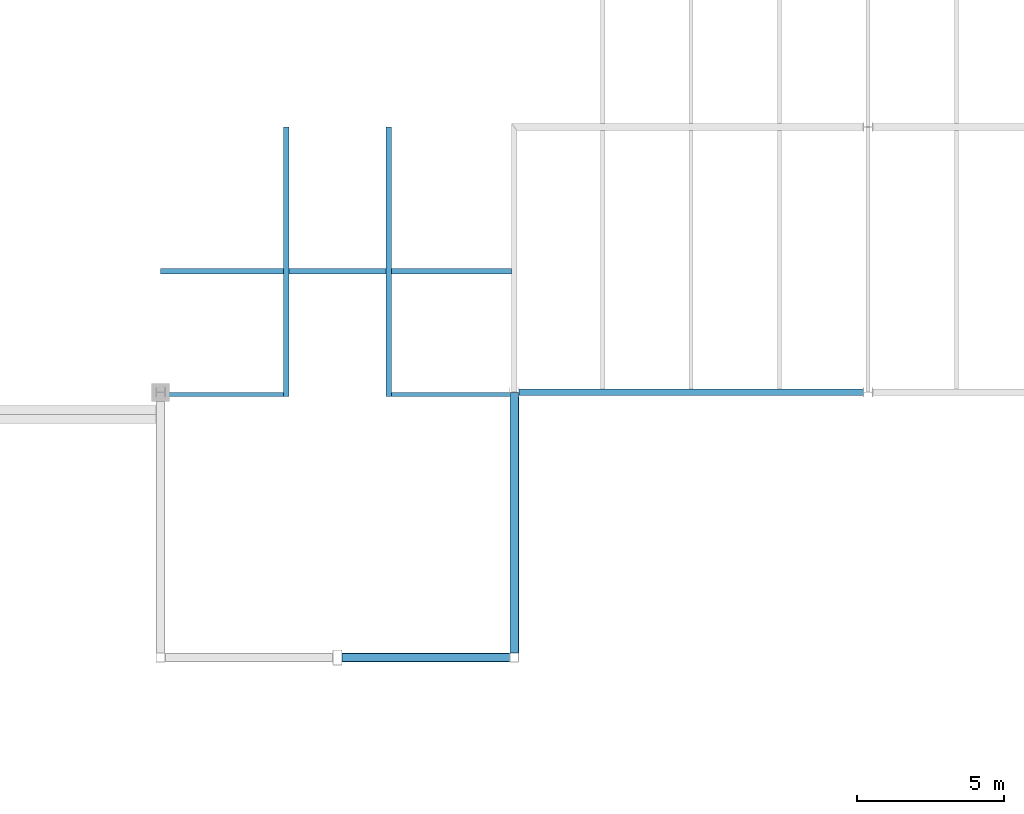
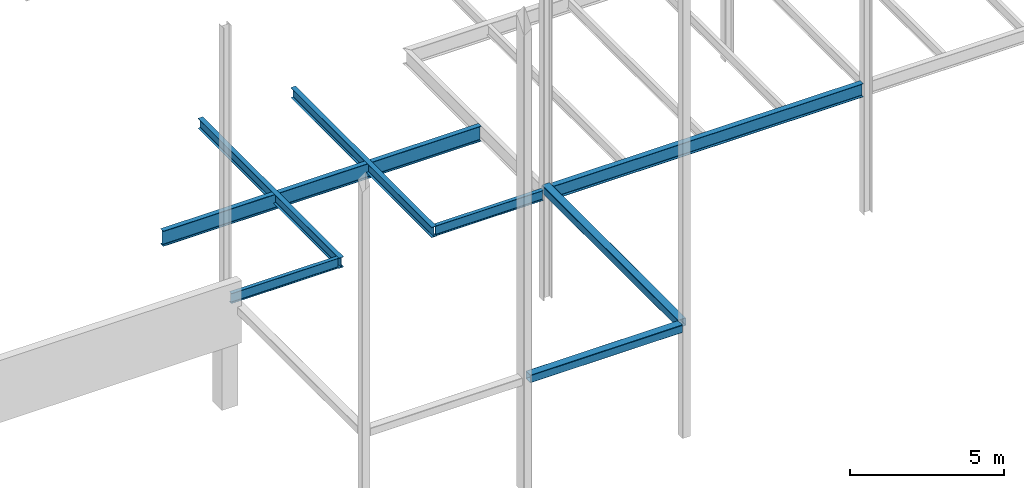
# One storey, part 11 of 19: 8 beams.
"""IFC2X3 building model written with IfcOpenShell, lengths in millimetres."""

from ifc_helpers import new_model, si_unit, origin, place, context, project, spatial, faceted_brep, material, element, save


model = new_model("IFC2X3")

# Units and contexts
context_of_model = context(None, 3, precision=1e-05, world=origin())
ifc_project = project(units=[si_unit("LENGTHUNIT", "METRE", prefix="MILLI")], contexts=[context_of_model])

# Building, storey
building = spatial("IfcBuilding", under=ifc_project, Name="Building", CompositionType="ELEMENT")
storey = spatial("IfcBuildingStorey", under=building, Name="FL2-FRM", CompositionType="ELEMENT")

# Beams
ifc_material_1 = material(Name="A992")
beam_1_placement = place(None, origin())
element("IfcBeam", 1, at=beam_1_placement, inside=storey, material=ifc_material_1, Name="Column489", context=context_of_model, shape_type="Brep", body=[
    faceted_brep([(12166.5, 8895.5, 3845.0), (12166.5, 9104.5, 3845.0), (23846.0, 9104.5, 3845.0), (23846.0, 8895.5, 3845.0), (12166.5, 9104.5, 3858.3), (23846.0, 9104.5, 3858.3), (12166.5, 9017.45, 3858.3), (23846.0, 9017.45, 3858.3), (12166.5, 9014.16, 3858.73), (23846.0, 9014.16, 3858.73), (12166.5, 9011.1, 3860.0), (23846.0, 9011.1, 3860.0), (12166.5, 9008.47, 3862.02), (23846.0, 9008.47, 3862.02), (12166.5, 9006.45, 3864.65), (23846.0, 9006.45, 3864.65), (12166.5, 9005.18, 3867.71), (23846.0, 9005.18, 3867.71), (12166.5, 9004.75, 3871.0), (23846.0, 9004.75, 3871.0), (12166.5, 9004.75, 4347.0), (23846.0, 9004.75, 4347.0), (12166.5, 9005.18, 4350.29), (23846.0, 9005.18, 4350.29), (12166.5, 9006.45, 4353.35), (23846.0, 9006.45, 4353.35), (12166.5, 9008.47, 4355.98), (23846.0, 9008.47, 4355.98), (12166.5, 9011.1, 4358.0), (23846.0, 9011.1, 4358.0), (12166.5, 9014.16, 4359.27), (23846.0, 9014.16, 4359.27), (12166.5, 9017.45, 4359.7), (23846.0, 9017.45, 4359.7), (12166.5, 9104.5, 4359.7), (23846.0, 9104.5, 4359.7), (12166.5, 9104.5, 4373.0), (23846.0, 9104.5, 4373.0), (12166.5, 8895.5, 4373.0), (23846.0, 8895.5, 4373.0), (12166.5, 8895.5, 4359.7), (23846.0, 8895.5, 4359.7), (12166.5, 8982.55, 4359.7), (23846.0, 8982.55, 4359.7), (12166.5, 8985.84, 4359.27), (23846.0, 8985.84, 4359.27), (12166.5, 8988.9, 4358.0), (23846.0, 8988.9, 4358.0), (12166.5, 8991.53, 4355.98), (23846.0, 8991.53, 4355.98), (12166.5, 8993.55, 4353.35), (23846.0, 8993.55, 4353.35), (12166.5, 8994.82, 4350.29), (23846.0, 8994.82, 4350.29), (12166.5, 8995.25, 4347.0), (23846.0, 8995.25, 4347.0), (12166.5, 8995.25, 3871.0), (23846.0, 8995.25, 3871.0), (12166.5, 8994.82, 3867.71), (23846.0, 8994.82, 3867.71), (12166.5, 8993.55, 3864.65), (23846.0, 8993.55, 3864.65), (12166.5, 8991.53, 3862.02), (23846.0, 8991.53, 3862.02), (12166.5, 8988.9, 3860.0), (23846.0, 8988.9, 3860.0), (12166.5, 8985.84, 3858.73), (23846.0, 8985.84, 3858.73), (12166.5, 8982.55, 3858.3), (23846.0, 8982.55, 3858.3), (12166.5, 8895.5, 3858.3), (23846.0, 8895.5, 3858.3)], [[[0, 1, 2, 3]], [[1, 4, 5, 2]], [[4, 6, 7, 5]], [[6, 8, 9, 7]], [[8, 10, 11, 9]], [[10, 12, 13, 11]], [[12, 14, 15, 13]], [[14, 16, 17, 15]], [[16, 18, 19, 17]], [[18, 20, 21, 19]], [[20, 22, 23, 21]], [[22, 24, 25, 23]], [[24, 26, 27, 25]], [[26, 28, 29, 27]], [[28, 30, 31, 29]], [[30, 32, 33, 31]], [[32, 34, 35, 33]], [[34, 36, 37, 35]], [[36, 38, 39, 37]], [[38, 40, 41, 39]], [[40, 42, 43, 41]], [[42, 44, 45, 43]], [[44, 46, 47, 45]], [[46, 48, 49, 47]], [[48, 50, 51, 49]], [[50, 52, 53, 51]], [[52, 54, 55, 53]], [[54, 56, 57, 55]], [[56, 58, 59, 57]], [[58, 60, 61, 59]], [[60, 62, 63, 61]], [[62, 64, 65, 63]], [[64, 66, 67, 65]], [[66, 68, 69, 67]], [[68, 70, 71, 69]], [[70, 0, 3, 71]], [[0, 70, 68, 66, 64, 62, 60, 58, 56, 54, 52, 50, 48, 46, 44, 42, 40, 38, 36, 34, 32, 30, 28, 26, 24, 22, 20, 18, 16, 14, 12, 10, 8, 6, 4, 1]], [[3, 2, 5, 7, 9, 11, 13, 15, 17, 19, 21, 23, 25, 27, 29, 31, 33, 35, 37, 39, 41, 43, 45, 47, 49, 51, 53, 55, 57, 59, 61, 63, 65, 67, 69, 71]]]),
])
ifc_material_2 = material(Name="A992")
beam_2_placement = place(None, origin())
element("IfcBeam", 2, at=beam_2_placement, inside=storey, material=ifc_material_2, Name="B599", context=context_of_model, shape_type="Brep", body=[
    faceted_brep([(0.0, 13020.0, 3770.0), (5.29946e-14, 13199.0, 3770.0), (11910.5, 13199.0, 3770.0), (11910.5, 13020.0, 3770.0), (5.29946e-14, 13199.0, 3785.0), (11910.5, 13199.0, 3785.0), (3.2611e-14, 13130.1, 3785.0), (11910.5, 13130.1, 3785.0), (3.14462e-14, 13126.2, 3785.52), (11910.5, 13126.2, 3785.52), (3.03609e-14, 13122.5, 3787.04), (11910.5, 13122.5, 3787.04), (2.94289e-14, 13119.4, 3789.45), (11910.5, 13119.4, 3789.45), (2.87137e-14, 13117.0, 3792.6), (11910.5, 13117.0, 3792.6), (2.82642e-14, 13115.5, 3796.27), (11910.5, 13115.5, 3796.27), (2.81108e-14, 13114.9, 3800.2), (11910.5, 13114.9, 3800.2), (2.81108e-14, 13114.9, 4342.8), (11910.5, 13114.9, 4342.8), (2.82642e-14, 13115.5, 4346.73), (11910.5, 13115.5, 4346.73), (2.87137e-14, 13117.0, 4350.4), (11910.5, 13117.0, 4350.4), (2.94289e-14, 13119.4, 4353.55), (11910.5, 13119.4, 4353.55), (3.03609e-14, 13122.5, 4355.96), (11910.5, 13122.5, 4355.96), (3.14462e-14, 13126.2, 4357.48), (11910.5, 13126.2, 4357.48), (3.2611e-14, 13130.1, 4358.0), (11910.5, 13130.1, 4358.0), (5.29946e-14, 13199.0, 4358.0), (11910.5, 13199.0, 4358.0), (5.29946e-14, 13199.0, 4373.0), (11910.5, 13199.0, 4373.0), (0.0, 13020.0, 4373.0), (11910.5, 13020.0, 4373.0), (0.0, 13020.0, 4358.0), (11910.5, 13020.0, 4358.0), (2.03837e-14, 13088.9, 4358.0), (11910.5, 13088.9, 4358.0), (2.15484e-14, 13092.8, 4357.48), (11910.5, 13092.8, 4357.48), (2.26337e-14, 13096.5, 4355.96), (11910.5, 13096.5, 4355.96), (2.35657e-14, 13099.6, 4353.55), (11910.5, 13099.6, 4353.55), (2.42809e-14, 13102.0, 4350.4), (11910.5, 13102.0, 4350.4), (2.47305e-14, 13103.5, 4346.73), (11910.5, 13103.5, 4346.73), (2.48838e-14, 13104.1, 4342.8), (11910.5, 13104.1, 4342.8), (2.48838e-14, 13104.1, 3800.2), (11910.5, 13104.1, 3800.2), (2.47305e-14, 13103.5, 3796.27), (11910.5, 13103.5, 3796.27), (2.42809e-14, 13102.0, 3792.6), (11910.5, 13102.0, 3792.6), (2.35657e-14, 13099.6, 3789.45), (11910.5, 13099.6, 3789.45), (2.26337e-14, 13096.5, 3787.04), (11910.5, 13096.5, 3787.04), (2.15484e-14, 13092.8, 3785.52), (11910.5, 13092.8, 3785.52), (2.03837e-14, 13088.9, 3785.0), (11910.5, 13088.9, 3785.0), (0.0, 13020.0, 3785.0), (11910.5, 13020.0, 3785.0)], [[[0, 1, 2, 3]], [[1, 4, 5, 2]], [[4, 6, 7, 5]], [[6, 8, 9, 7]], [[8, 10, 11, 9]], [[10, 12, 13, 11]], [[12, 14, 15, 13]], [[14, 16, 17, 15]], [[16, 18, 19, 17]], [[18, 20, 21, 19]], [[20, 22, 23, 21]], [[22, 24, 25, 23]], [[24, 26, 27, 25]], [[26, 28, 29, 27]], [[28, 30, 31, 29]], [[30, 32, 33, 31]], [[32, 34, 35, 33]], [[34, 36, 37, 35]], [[36, 38, 39, 37]], [[38, 40, 41, 39]], [[40, 42, 43, 41]], [[42, 44, 45, 43]], [[44, 46, 47, 45]], [[46, 48, 49, 47]], [[48, 50, 51, 49]], [[50, 52, 53, 51]], [[52, 54, 55, 53]], [[54, 56, 57, 55]], [[56, 58, 59, 57]], [[58, 60, 61, 59]], [[60, 62, 63, 61]], [[62, 64, 65, 63]], [[64, 66, 67, 65]], [[66, 68, 69, 67]], [[68, 70, 71, 69]], [[70, 0, 3, 71]], [[0, 70, 68, 66, 64, 62, 60, 58, 56, 54, 52, 50, 48, 46, 44, 42, 40, 38, 36, 34, 32, 30, 28, 26, 24, 22, 20, 18, 16, 14, 12, 10, 8, 6, 4, 1]], [[3, 2, 5, 7, 9, 11, 13, 15, 17, 19, 21, 23, 25, 27, 29, 31, 33, 35, 37, 39, 41, 43, 45, 47, 49, 51, 53, 55, 57, 59, 61, 63, 65, 67, 69, 71]]]),
])
ifc_material_3 = material(Name="A992")
beam_3_placement = place(None, origin())
element("IfcBeam", 3, at=beam_3_placement, inside=storey, material=ifc_material_3, Name="B750", context=context_of_model, shape_type="Brep", body=[
    faceted_brep([(4351.0, 8851.2, 3966.0), (4173.0, 8851.2, 3966.0), (4173.0, 18000.0, 3966.0), (4351.0, 18000.0, 3966.0), (4173.0, 8851.2, 3978.8), (4173.0, 18000.0, 3978.8), (4247.95, 8851.2, 3978.8), (4247.95, 18000.0, 3978.8), (4250.59, 8851.2, 3979.15), (4250.59, 18000.0, 3979.15), (4253.05, 8851.2, 3980.17), (4253.05, 18000.0, 3980.17), (4255.16, 8851.2, 3981.79), (4255.16, 18000.0, 3981.79), (4256.78, 8851.2, 3983.9), (4256.78, 18000.0, 3983.9), (4257.8, 8851.2, 3986.36), (4257.8, 18000.0, 3986.36), (4258.15, 8851.2, 3989.0), (4258.15, 18000.0, 3989.0), (4258.15, 8851.2, 4350.0), (4258.15, 18000.0, 4350.0), (4257.8, 8851.2, 4352.64), (4257.8, 18000.0, 4352.64), (4256.78, 8851.2, 4355.1), (4256.78, 18000.0, 4355.1), (4255.16, 8851.2, 4357.21), (4255.16, 18000.0, 4357.21), (4253.05, 8851.2, 4358.83), (4253.05, 18000.0, 4358.83), (4250.59, 8851.2, 4359.85), (4250.59, 18000.0, 4359.85), (4247.95, 8851.2, 4360.2), (4247.95, 18000.0, 4360.2), (4173.0, 8851.2, 4360.2), (4173.0, 18000.0, 4360.2), (4173.0, 8851.2, 4373.0), (4173.0, 18000.0, 4373.0), (4351.0, 8851.2, 4373.0), (4351.0, 18000.0, 4373.0), (4351.0, 8851.2, 4360.2), (4351.0, 18000.0, 4360.2), (4276.05, 8851.2, 4360.2), (4276.05, 18000.0, 4360.2), (4273.41, 8851.2, 4359.85), (4273.41, 18000.0, 4359.85), (4270.95, 8851.2, 4358.83), (4270.95, 18000.0, 4358.83), (4268.84, 8851.2, 4357.21), (4268.84, 18000.0, 4357.21), (4267.22, 8851.2, 4355.1), (4267.22, 18000.0, 4355.1), (4266.2, 8851.2, 4352.64), (4266.2, 18000.0, 4352.64), (4265.85, 8851.2, 4350.0), (4265.85, 18000.0, 4350.0), (4265.85, 8851.2, 3989.0), (4265.85, 18000.0, 3989.0), (4266.2, 8851.2, 3986.36), (4266.2, 18000.0, 3986.36), (4267.22, 8851.2, 3983.9), (4267.22, 18000.0, 3983.9), (4268.84, 8851.2, 3981.79), (4268.84, 18000.0, 3981.79), (4270.95, 8851.2, 3980.17), (4270.95, 18000.0, 3980.17), (4273.41, 8851.2, 3979.15), (4273.41, 18000.0, 3979.15), (4276.05, 8851.2, 3978.8), (4276.05, 18000.0, 3978.8), (4351.0, 8851.2, 3978.8), (4351.0, 18000.0, 3978.8)], [[[0, 1, 2, 3]], [[1, 4, 5, 2]], [[4, 6, 7, 5]], [[6, 8, 9, 7]], [[8, 10, 11, 9]], [[10, 12, 13, 11]], [[12, 14, 15, 13]], [[14, 16, 17, 15]], [[16, 18, 19, 17]], [[18, 20, 21, 19]], [[20, 22, 23, 21]], [[22, 24, 25, 23]], [[24, 26, 27, 25]], [[26, 28, 29, 27]], [[28, 30, 31, 29]], [[30, 32, 33, 31]], [[32, 34, 35, 33]], [[34, 36, 37, 35]], [[36, 38, 39, 37]], [[38, 40, 41, 39]], [[40, 42, 43, 41]], [[42, 44, 45, 43]], [[44, 46, 47, 45]], [[46, 48, 49, 47]], [[48, 50, 51, 49]], [[50, 52, 53, 51]], [[52, 54, 55, 53]], [[54, 56, 57, 55]], [[56, 58, 59, 57]], [[58, 60, 61, 59]], [[60, 62, 63, 61]], [[62, 64, 65, 63]], [[64, 66, 67, 65]], [[66, 68, 69, 67]], [[68, 70, 71, 69]], [[70, 0, 3, 71]], [[0, 70, 68, 66, 64, 62, 60, 58, 56, 54, 52, 50, 48, 46, 44, 42, 40, 38, 36, 34, 32, 30, 28, 26, 24, 22, 20, 18, 16, 14, 12, 10, 8, 6, 4, 1]], [[3, 2, 5, 7, 9, 11, 13, 15, 17, 19, 21, 23, 25, 27, 29, 31, 33, 35, 37, 39, 41, 43, 45, 47, 49, 51, 53, 55, 57, 59, 61, 63, 65, 67, 69, 71]]]),
])
ifc_material_4 = material(Name="A992")
beam_4_placement = place(None, origin())
element("IfcBeam", 4, at=beam_4_placement, inside=storey, material=ifc_material_4, Name="B751", context=context_of_model, shape_type="Brep", body=[
    faceted_brep([(7827.0, 8851.2, 3966.0), (7649.0, 8851.2, 3966.0), (7649.0, 18000.0, 3966.0), (7827.0, 18000.0, 3966.0), (7649.0, 8851.2, 3978.8), (7649.0, 18000.0, 3978.8), (7723.95, 8851.2, 3978.8), (7723.95, 18000.0, 3978.8), (7726.59, 8851.2, 3979.15), (7726.59, 18000.0, 3979.15), (7729.05, 8851.2, 3980.17), (7729.05, 18000.0, 3980.17), (7731.16, 8851.2, 3981.79), (7731.16, 18000.0, 3981.79), (7732.78, 8851.2, 3983.9), (7732.78, 18000.0, 3983.9), (7733.8, 8851.2, 3986.36), (7733.8, 18000.0, 3986.36), (7734.15, 8851.2, 3989.0), (7734.15, 18000.0, 3989.0), (7734.15, 8851.2, 4350.0), (7734.15, 18000.0, 4350.0), (7733.8, 8851.2, 4352.64), (7733.8, 18000.0, 4352.64), (7732.78, 8851.2, 4355.1), (7732.78, 18000.0, 4355.1), (7731.16, 8851.2, 4357.21), (7731.16, 18000.0, 4357.21), (7729.05, 8851.2, 4358.83), (7729.05, 18000.0, 4358.83), (7726.59, 8851.2, 4359.85), (7726.59, 18000.0, 4359.85), (7723.95, 8851.2, 4360.2), (7723.95, 18000.0, 4360.2), (7649.0, 8851.2, 4360.2), (7649.0, 18000.0, 4360.2), (7649.0, 8851.2, 4373.0), (7649.0, 18000.0, 4373.0), (7827.0, 8851.2, 4373.0), (7827.0, 18000.0, 4373.0), (7827.0, 8851.2, 4360.2), (7827.0, 18000.0, 4360.2), (7752.05, 8851.2, 4360.2), (7752.05, 18000.0, 4360.2), (7749.41, 8851.2, 4359.85), (7749.41, 18000.0, 4359.85), (7746.95, 8851.2, 4358.83), (7746.95, 18000.0, 4358.83), (7744.84, 8851.2, 4357.21), (7744.84, 18000.0, 4357.21), (7743.22, 8851.2, 4355.1), (7743.22, 18000.0, 4355.1), (7742.2, 8851.2, 4352.64), (7742.2, 18000.0, 4352.64), (7741.85, 8851.2, 4350.0), (7741.85, 18000.0, 4350.0), (7741.85, 8851.2, 3989.0), (7741.85, 18000.0, 3989.0), (7742.2, 8851.2, 3986.36), (7742.2, 18000.0, 3986.36), (7743.22, 8851.2, 3983.9), (7743.22, 18000.0, 3983.9), (7744.84, 8851.2, 3981.79), (7744.84, 18000.0, 3981.79), (7746.95, 8851.2, 3980.17), (7746.95, 18000.0, 3980.17), (7749.41, 8851.2, 3979.15), (7749.41, 18000.0, 3979.15), (7752.05, 8851.2, 3978.8), (7752.05, 18000.0, 3978.8), (7827.0, 8851.2, 3978.8), (7827.0, 18000.0, 3978.8)], [[[0, 1, 2, 3]], [[1, 4, 5, 2]], [[4, 6, 7, 5]], [[6, 8, 9, 7]], [[8, 10, 11, 9]], [[10, 12, 13, 11]], [[12, 14, 15, 13]], [[14, 16, 17, 15]], [[16, 18, 19, 17]], [[18, 20, 21, 19]], [[20, 22, 23, 21]], [[22, 24, 25, 23]], [[24, 26, 27, 25]], [[26, 28, 29, 27]], [[28, 30, 31, 29]], [[30, 32, 33, 31]], [[32, 34, 35, 33]], [[34, 36, 37, 35]], [[36, 38, 39, 37]], [[38, 40, 41, 39]], [[40, 42, 43, 41]], [[42, 44, 45, 43]], [[44, 46, 47, 45]], [[46, 48, 49, 47]], [[48, 50, 51, 49]], [[50, 52, 53, 51]], [[52, 54, 55, 53]], [[54, 56, 57, 55]], [[56, 58, 59, 57]], [[58, 60, 61, 59]], [[60, 62, 63, 61]], [[62, 64, 65, 63]], [[64, 66, 67, 65]], [[66, 68, 69, 67]], [[68, 70, 71, 69]], [[70, 0, 3, 71]], [[0, 70, 68, 66, 64, 62, 60, 58, 56, 54, 52, 50, 48, 46, 44, 42, 40, 38, 36, 34, 32, 30, 28, 26, 24, 22, 20, 18, 16, 14, 12, 10, 8, 6, 4, 1]], [[3, 2, 5, 7, 9, 11, 13, 15, 17, 19, 21, 23, 25, 27, 29, 31, 33, 35, 37, 39, 41, 43, 45, 47, 49, 51, 53, 55, 57, 59, 61, 63, 65, 67, 69, 71]]]),
])
ifc_material_5 = material(Name="A500 grade B")
beam_5_placement = place(None, origin())
element("IfcBeam", 5, at=beam_5_placement, inside=storey, material=ifc_material_5, Name="B1233", context=context_of_model, shape_type="Brep", body=[
    faceted_brep([(6152.5, -1.94289e-12, 4195.0), (6152.5, 133.5, 4195.0), (11847.5, 133.5, 4195.0), (11847.5, -1.94289e-12, 4195.0), (6152.5, 138.418, 4195.65), (11847.5, 138.418, 4195.65), (6152.5, 143.0, 4197.55), (11847.5, 143.0, 4197.55), (6152.5, 146.935, 4200.56), (11847.5, 146.935, 4200.56), (6152.5, 149.954, 4204.5), (11847.5, 149.954, 4204.5), (6152.5, 151.853, 4209.08), (11847.5, 151.853, 4209.08), (6152.5, 152.5, 4214.0), (11847.5, 152.5, 4214.0), (6152.5, 152.5, 4481.0), (11847.5, 152.5, 4481.0), (6152.5, 151.853, 4485.92), (11847.5, 151.853, 4485.92), (6152.5, 149.954, 4490.5), (11847.5, 149.954, 4490.5), (6152.5, 146.935, 4494.44), (11847.5, 146.935, 4494.44), (6152.5, 143.0, 4497.45), (11847.5, 143.0, 4497.45), (6152.5, 138.418, 4499.35), (11847.5, 138.418, 4499.35), (6152.5, 133.5, 4500.0), (11847.5, 133.5, 4500.0), (6152.5, -133.5, 4500.0), (11847.5, -133.5, 4500.0), (6152.5, -138.418, 4499.35), (11847.5, -138.418, 4499.35), (6152.5, -143.0, 4497.45), (11847.5, -143.0, 4497.45), (6152.5, -146.935, 4494.44), (11847.5, -146.935, 4494.44), (6152.5, -149.954, 4490.5), (11847.5, -149.954, 4490.5), (6152.5, -151.853, 4485.92), (11847.5, -151.853, 4485.92), (6152.5, -152.5, 4481.0), (11847.5, -152.5, 4481.0), (6152.5, -152.5, 4214.0), (11847.5, -152.5, 4214.0), (6152.5, -151.853, 4209.08), (11847.5, -151.853, 4209.08), (6152.5, -149.954, 4204.5), (11847.5, -149.954, 4204.5), (6152.5, -146.935, 4200.56), (11847.5, -146.935, 4200.56), (6152.5, -143.0, 4197.55), (11847.5, -143.0, 4197.55), (6152.5, -138.418, 4195.65), (11847.5, -138.418, 4195.65), (6152.5, -133.5, 4195.0), (11847.5, -133.5, 4195.0), (6152.5, -1.94289e-12, 4204.5), (6152.5, -133.5, 4204.5), (11847.5, -133.5, 4204.5), (11847.5, -1.94289e-12, 4204.5), (6152.5, -135.959, 4204.82), (11847.5, -135.959, 4204.82), (6152.5, -138.25, 4205.77), (11847.5, -138.25, 4205.77), (6152.5, -140.218, 4207.28), (11847.5, -140.218, 4207.28), (6152.5, -141.727, 4209.25), (11847.5, -141.727, 4209.25), (6152.5, -142.676, 4211.54), (11847.5, -142.676, 4211.54), (6152.5, -143.0, 4214.0), (11847.5, -143.0, 4214.0), (6152.5, -143.0, 4481.0), (11847.5, -143.0, 4481.0), (6152.5, -142.676, 4483.46), (11847.5, -142.676, 4483.46), (6152.5, -141.727, 4485.75), (11847.5, -141.727, 4485.75), (6152.5, -140.218, 4487.72), (11847.5, -140.218, 4487.72), (6152.5, -138.25, 4489.23), (11847.5, -138.25, 4489.23), (6152.5, -135.959, 4490.18), (11847.5, -135.959, 4490.18), (6152.5, -133.5, 4490.5), (11847.5, -133.5, 4490.5), (6152.5, 133.5, 4490.5), (11847.5, 133.5, 4490.5), (6152.5, 135.959, 4490.18), (11847.5, 135.959, 4490.18), (6152.5, 138.25, 4489.23), (11847.5, 138.25, 4489.23), (6152.5, 140.218, 4487.72), (11847.5, 140.218, 4487.72), (6152.5, 141.727, 4485.75), (11847.5, 141.727, 4485.75), (6152.5, 142.676, 4483.46), (11847.5, 142.676, 4483.46), (6152.5, 143.0, 4481.0), (11847.5, 143.0, 4481.0), (6152.5, 143.0, 4214.0), (11847.5, 143.0, 4214.0), (6152.5, 142.676, 4211.54), (11847.5, 142.676, 4211.54), (6152.5, 141.727, 4209.25), (11847.5, 141.727, 4209.25), (6152.5, 140.218, 4207.28), (11847.5, 140.218, 4207.28), (6152.5, 138.25, 4205.77), (11847.5, 138.25, 4205.77), (6152.5, 135.959, 4204.82), (11847.5, 135.959, 4204.82), (6152.5, 133.5, 4204.5), (11847.5, 133.5, 4204.5)], [[[0, 1, 2, 3]], [[1, 4, 5, 2]], [[4, 6, 7, 5]], [[6, 8, 9, 7]], [[8, 10, 11, 9]], [[10, 12, 13, 11]], [[12, 14, 15, 13]], [[14, 16, 17, 15]], [[16, 18, 19, 17]], [[18, 20, 21, 19]], [[20, 22, 23, 21]], [[22, 24, 25, 23]], [[24, 26, 27, 25]], [[26, 28, 29, 27]], [[28, 30, 31, 29]], [[30, 32, 33, 31]], [[32, 34, 35, 33]], [[34, 36, 37, 35]], [[36, 38, 39, 37]], [[38, 40, 41, 39]], [[40, 42, 43, 41]], [[42, 44, 45, 43]], [[44, 46, 47, 45]], [[46, 48, 49, 47]], [[48, 50, 51, 49]], [[50, 52, 53, 51]], [[52, 54, 55, 53]], [[54, 56, 57, 55]], [[56, 0, 3, 57]], [[58, 59, 60, 61]], [[59, 62, 63, 60]], [[62, 64, 65, 63]], [[64, 66, 67, 65]], [[66, 68, 69, 67]], [[68, 70, 71, 69]], [[70, 72, 73, 71]], [[72, 74, 75, 73]], [[74, 76, 77, 75]], [[76, 78, 79, 77]], [[78, 80, 81, 79]], [[80, 82, 83, 81]], [[82, 84, 85, 83]], [[84, 86, 87, 85]], [[86, 88, 89, 87]], [[88, 90, 91, 89]], [[90, 92, 93, 91]], [[92, 94, 95, 93]], [[94, 96, 97, 95]], [[96, 98, 99, 97]], [[98, 100, 101, 99]], [[100, 102, 103, 101]], [[102, 104, 105, 103]], [[104, 106, 107, 105]], [[106, 108, 109, 107]], [[108, 110, 111, 109]], [[110, 112, 113, 111]], [[112, 114, 115, 113]], [[114, 58, 61, 115]], [[0, 56, 54, 52, 50, 48, 46, 44, 42, 40, 38, 36, 34, 32, 30, 28, 26, 24, 22, 20, 18, 16, 14, 12, 10, 8, 6, 4, 1], [58, 114, 112, 110, 108, 106, 104, 102, 100, 98, 96, 94, 92, 90, 88, 86, 84, 82, 80, 78, 76, 74, 72, 70, 68, 66, 64, 62, 59]], [[3, 2, 5, 7, 9, 11, 13, 15, 17, 19, 21, 23, 25, 27, 29, 31, 33, 35, 37, 39, 41, 43, 45, 47, 49, 51, 53, 55, 57], [61, 60, 63, 65, 67, 69, 71, 73, 75, 77, 79, 81, 83, 85, 87, 89, 91, 93, 95, 97, 99, 101, 103, 105, 107, 109, 111, 113, 115]]]),
])
ifc_material_6 = material(Name="A500 grade B")
beam_6_placement = place(None, origin())
element("IfcBeam", 6, at=beam_6_placement, inside=storey, material=ifc_material_6, Name="B1234", context=context_of_model, shape_type="Brep", body=[
    faceted_brep([(12000.0, 152.5, 4195.0), (11866.5, 152.5, 4195.0), (11866.5, 8991.0, 4195.0), (12000.0, 8991.0, 4195.0), (11861.6, 152.5, 4195.65), (11861.6, 8991.0, 4195.65), (11857.0, 152.5, 4197.55), (11857.0, 8991.0, 4197.55), (11853.1, 152.5, 4200.56), (11853.1, 8991.0, 4200.56), (11850.0, 152.5, 4204.5), (11850.0, 8991.0, 4204.5), (11848.1, 152.5, 4209.08), (11848.1, 8991.0, 4209.08), (11847.5, 152.5, 4214.0), (11847.5, 8991.0, 4214.0), (11847.5, 152.5, 4481.0), (11847.5, 8991.0, 4481.0), (11848.1, 152.5, 4485.92), (11848.1, 8991.0, 4485.92), (11850.0, 152.5, 4490.5), (11850.0, 8991.0, 4490.5), (11853.1, 152.5, 4494.44), (11853.1, 8991.0, 4494.44), (11857.0, 152.5, 4497.45), (11857.0, 8991.0, 4497.45), (11861.6, 152.5, 4499.35), (11861.6, 8991.0, 4499.35), (11866.5, 152.5, 4500.0), (11866.5, 8991.0, 4500.0), (12133.5, 152.5, 4500.0), (12133.5, 8991.0, 4500.0), (12138.4, 152.5, 4499.35), (12138.4, 8991.0, 4499.35), (12143.0, 152.5, 4497.45), (12143.0, 8991.0, 4497.45), (12146.9, 152.5, 4494.44), (12146.9, 8991.0, 4494.44), (12150.0, 152.5, 4490.5), (12150.0, 8991.0, 4490.5), (12151.9, 152.5, 4485.92), (12151.9, 8991.0, 4485.92), (12152.5, 152.5, 4481.0), (12152.5, 8991.0, 4481.0), (12152.5, 152.5, 4214.0), (12152.5, 8991.0, 4214.0), (12151.9, 152.5, 4209.08), (12151.9, 8991.0, 4209.08), (12150.0, 152.5, 4204.5), (12150.0, 8991.0, 4204.5), (12146.9, 152.5, 4200.56), (12146.9, 8991.0, 4200.56), (12143.0, 152.5, 4197.55), (12143.0, 8991.0, 4197.55), (12138.4, 152.5, 4195.65), (12138.4, 8991.0, 4195.65), (12133.5, 152.5, 4195.0), (12133.5, 8991.0, 4195.0), (12000.0, 152.5, 4204.5), (12133.5, 152.5, 4204.5), (12133.5, 8991.0, 4204.5), (12000.0, 8991.0, 4204.5), (12136.0, 152.5, 4204.82), (12136.0, 8991.0, 4204.82), (12138.3, 152.5, 4205.77), (12138.3, 8991.0, 4205.77), (12140.2, 152.5, 4207.28), (12140.2, 8991.0, 4207.28), (12141.7, 152.5, 4209.25), (12141.7, 8991.0, 4209.25), (12142.7, 152.5, 4211.54), (12142.7, 8991.0, 4211.54), (12143.0, 152.5, 4214.0), (12143.0, 8991.0, 4214.0), (12143.0, 152.5, 4481.0), (12143.0, 8991.0, 4481.0), (12142.7, 152.5, 4483.46), (12142.7, 8991.0, 4483.46), (12141.7, 152.5, 4485.75), (12141.7, 8991.0, 4485.75), (12140.2, 152.5, 4487.72), (12140.2, 8991.0, 4487.72), (12138.3, 152.5, 4489.23), (12138.3, 8991.0, 4489.23), (12136.0, 152.5, 4490.18), (12136.0, 8991.0, 4490.18), (12133.5, 152.5, 4490.5), (12133.5, 8991.0, 4490.5), (11866.5, 152.5, 4490.5), (11866.5, 8991.0, 4490.5), (11864.0, 152.5, 4490.18), (11864.0, 8991.0, 4490.18), (11861.8, 152.5, 4489.23), (11861.8, 8991.0, 4489.23), (11859.8, 152.5, 4487.72), (11859.8, 8991.0, 4487.72), (11858.3, 152.5, 4485.75), (11858.3, 8991.0, 4485.75), (11857.3, 152.5, 4483.46), (11857.3, 8991.0, 4483.46), (11857.0, 152.5, 4481.0), (11857.0, 8991.0, 4481.0), (11857.0, 152.5, 4214.0), (11857.0, 8991.0, 4214.0), (11857.3, 152.5, 4211.54), (11857.3, 8991.0, 4211.54), (11858.3, 152.5, 4209.25), (11858.3, 8991.0, 4209.25), (11859.8, 152.5, 4207.28), (11859.8, 8991.0, 4207.28), (11861.8, 152.5, 4205.77), (11861.8, 8991.0, 4205.77), (11864.0, 152.5, 4204.82), (11864.0, 8991.0, 4204.82), (11866.5, 152.5, 4204.5), (11866.5, 8991.0, 4204.5)], [[[0, 1, 2, 3]], [[1, 4, 5, 2]], [[4, 6, 7, 5]], [[6, 8, 9, 7]], [[8, 10, 11, 9]], [[10, 12, 13, 11]], [[12, 14, 15, 13]], [[14, 16, 17, 15]], [[16, 18, 19, 17]], [[18, 20, 21, 19]], [[20, 22, 23, 21]], [[22, 24, 25, 23]], [[24, 26, 27, 25]], [[26, 28, 29, 27]], [[28, 30, 31, 29]], [[30, 32, 33, 31]], [[32, 34, 35, 33]], [[34, 36, 37, 35]], [[36, 38, 39, 37]], [[38, 40, 41, 39]], [[40, 42, 43, 41]], [[42, 44, 45, 43]], [[44, 46, 47, 45]], [[46, 48, 49, 47]], [[48, 50, 51, 49]], [[50, 52, 53, 51]], [[52, 54, 55, 53]], [[54, 56, 57, 55]], [[56, 0, 3, 57]], [[58, 59, 60, 61]], [[59, 62, 63, 60]], [[62, 64, 65, 63]], [[64, 66, 67, 65]], [[66, 68, 69, 67]], [[68, 70, 71, 69]], [[70, 72, 73, 71]], [[72, 74, 75, 73]], [[74, 76, 77, 75]], [[76, 78, 79, 77]], [[78, 80, 81, 79]], [[80, 82, 83, 81]], [[82, 84, 85, 83]], [[84, 86, 87, 85]], [[86, 88, 89, 87]], [[88, 90, 91, 89]], [[90, 92, 93, 91]], [[92, 94, 95, 93]], [[94, 96, 97, 95]], [[96, 98, 99, 97]], [[98, 100, 101, 99]], [[100, 102, 103, 101]], [[102, 104, 105, 103]], [[104, 106, 107, 105]], [[106, 108, 109, 107]], [[108, 110, 111, 109]], [[110, 112, 113, 111]], [[112, 114, 115, 113]], [[114, 58, 61, 115]], [[0, 56, 54, 52, 50, 48, 46, 44, 42, 40, 38, 36, 34, 32, 30, 28, 26, 24, 22, 20, 18, 16, 14, 12, 10, 8, 6, 4, 1], [58, 114, 112, 110, 108, 106, 104, 102, 100, 98, 96, 94, 92, 90, 88, 86, 84, 82, 80, 78, 76, 74, 72, 70, 68, 66, 64, 62, 59]], [[3, 2, 5, 7, 9, 11, 13, 15, 17, 19, 21, 23, 25, 27, 29, 31, 33, 35, 37, 39, 41, 43, 45, 47, 49, 51, 53, 55, 57], [61, 60, 63, 65, 67, 69, 71, 73, 75, 77, 79, 81, 83, 85, 87, 89, 91, 93, 95, 97, 99, 101, 103, 105, 107, 109, 111, 113, 115]]]),
])
ifc_material_7 = material(Name="A992")
beam_7_placement = place(None, origin())
element("IfcBeam", 7, at=beam_7_placement, inside=storey, material=ifc_material_7, Name="B1244", context=context_of_model, shape_type="Brep", body=[
    faceted_brep([(4173.2, 9000.0, 3974.0), (4173.2, 8860.0, 3974.0), (154.0, 8860.0, 3974.0), (154.0, 9000.0, 3974.0), (4173.2, 8860.0, 3982.8), (154.0, 8860.0, 3982.8), (4173.2, 8916.6, 3982.8), (154.0, 8916.6, 3982.8), (4173.2, 8919.24, 3983.15), (154.0, 8919.24, 3983.15), (4173.2, 8921.7, 3984.17), (154.0, 8921.7, 3984.17), (4173.2, 8923.81, 3985.79), (154.0, 8923.81, 3985.79), (4173.2, 8925.43, 3987.9), (154.0, 8925.43, 3987.9), (4173.2, 8926.45, 3990.36), (154.0, 8926.45, 3990.36), (4173.2, 8926.8, 3993.0), (154.0, 8926.8, 3993.0), (4173.2, 8926.8, 4354.0), (154.0, 8926.8, 4354.0), (4173.2, 8926.45, 4356.64), (154.0, 8926.45, 4356.64), (4173.2, 8925.43, 4359.1), (154.0, 8925.43, 4359.1), (4173.2, 8923.81, 4361.21), (154.0, 8923.81, 4361.21), (4173.2, 8921.7, 4362.83), (154.0, 8921.7, 4362.83), (4173.2, 8919.24, 4363.85), (154.0, 8919.24, 4363.85), (4173.2, 8916.6, 4364.2), (154.0, 8916.6, 4364.2), (4173.2, 8860.0, 4364.2), (154.0, 8860.0, 4364.2), (4173.2, 8860.0, 4373.0), (154.0, 8860.0, 4373.0), (4173.2, 9000.0, 4373.0), (154.0, 9000.0, 4373.0), (4173.2, 9000.0, 4364.2), (154.0, 9000.0, 4364.2), (4173.2, 8943.4, 4364.2), (154.0, 8943.4, 4364.2), (4173.2, 8940.76, 4363.85), (154.0, 8940.76, 4363.85), (4173.2, 8938.3, 4362.83), (154.0, 8938.3, 4362.83), (4173.2, 8936.19, 4361.21), (154.0, 8936.19, 4361.21), (4173.2, 8934.57, 4359.1), (154.0, 8934.57, 4359.1), (4173.2, 8933.55, 4356.64), (154.0, 8933.55, 4356.64), (4173.2, 8933.2, 4354.0), (154.0, 8933.2, 4354.0), (4173.2, 8933.2, 3993.0), (154.0, 8933.2, 3993.0), (4173.2, 8933.55, 3990.36), (154.0, 8933.55, 3990.36), (4173.2, 8934.57, 3987.9), (154.0, 8934.57, 3987.9), (4173.2, 8936.19, 3985.79), (154.0, 8936.19, 3985.79), (4173.2, 8938.3, 3984.17), (154.0, 8938.3, 3984.17), (4173.2, 8940.76, 3983.15), (154.0, 8940.76, 3983.15), (4173.2, 8943.4, 3982.8), (154.0, 8943.4, 3982.8), (4173.2, 9000.0, 3982.8), (154.0, 9000.0, 3982.8)], [[[0, 1, 2, 3]], [[1, 4, 5, 2]], [[4, 6, 7, 5]], [[6, 8, 9, 7]], [[8, 10, 11, 9]], [[10, 12, 13, 11]], [[12, 14, 15, 13]], [[14, 16, 17, 15]], [[16, 18, 19, 17]], [[18, 20, 21, 19]], [[20, 22, 23, 21]], [[22, 24, 25, 23]], [[24, 26, 27, 25]], [[26, 28, 29, 27]], [[28, 30, 31, 29]], [[30, 32, 33, 31]], [[32, 34, 35, 33]], [[34, 36, 37, 35]], [[36, 38, 39, 37]], [[38, 40, 41, 39]], [[40, 42, 43, 41]], [[42, 44, 45, 43]], [[44, 46, 47, 45]], [[46, 48, 49, 47]], [[48, 50, 51, 49]], [[50, 52, 53, 51]], [[52, 54, 55, 53]], [[54, 56, 57, 55]], [[56, 58, 59, 57]], [[58, 60, 61, 59]], [[60, 62, 63, 61]], [[62, 64, 65, 63]], [[64, 66, 67, 65]], [[66, 68, 69, 67]], [[68, 70, 71, 69]], [[70, 0, 3, 71]], [[0, 70, 68, 66, 64, 62, 60, 58, 56, 54, 52, 50, 48, 46, 44, 42, 40, 38, 36, 34, 32, 30, 28, 26, 24, 22, 20, 18, 16, 14, 12, 10, 8, 6, 4, 1]], [[3, 2, 5, 7, 9, 11, 13, 15, 17, 19, 21, 23, 25, 27, 29, 31, 33, 35, 37, 39, 41, 43, 45, 47, 49, 51, 53, 55, 57, 59, 61, 63, 65, 67, 69, 71]]]),
])
ifc_material_8 = material(Name="A992")
beam_8_placement = place(None, origin())
element("IfcBeam", 8, at=beam_8_placement, inside=storey, material=ifc_material_8, Name="B1245", context=context_of_model, shape_type="Brep", body=[
    faceted_brep([(11847.6, 9000.0, 3974.0), (11847.6, 8860.0, 3974.0), (7826.8, 8860.0, 3974.0), (7826.8, 9000.0, 3974.0), (11847.6, 8860.0, 3982.8), (7826.8, 8860.0, 3982.8), (11847.6, 8916.6, 3982.8), (7826.8, 8916.6, 3982.8), (11847.6, 8919.24, 3983.15), (7826.8, 8919.24, 3983.15), (11847.6, 8921.7, 3984.17), (7826.8, 8921.7, 3984.17), (11847.6, 8923.81, 3985.79), (7826.8, 8923.81, 3985.79), (11847.6, 8925.43, 3987.9), (7826.8, 8925.43, 3987.9), (11847.6, 8926.45, 3990.36), (7826.8, 8926.45, 3990.36), (11847.6, 8926.8, 3993.0), (7826.8, 8926.8, 3993.0), (11847.6, 8926.8, 4354.0), (7826.8, 8926.8, 4354.0), (11847.6, 8926.45, 4356.64), (7826.8, 8926.45, 4356.64), (11847.6, 8925.43, 4359.1), (7826.8, 8925.43, 4359.1), (11847.6, 8923.81, 4361.21), (7826.8, 8923.81, 4361.21), (11847.6, 8921.7, 4362.83), (7826.8, 8921.7, 4362.83), (11847.6, 8919.24, 4363.85), (7826.8, 8919.24, 4363.85), (11847.6, 8916.6, 4364.2), (7826.8, 8916.6, 4364.2), (11847.6, 8860.0, 4364.2), (7826.8, 8860.0, 4364.2), (11847.6, 8860.0, 4373.0), (7826.8, 8860.0, 4373.0), (11847.6, 9000.0, 4373.0), (7826.8, 9000.0, 4373.0), (11847.6, 9000.0, 4364.2), (7826.8, 9000.0, 4364.2), (11847.6, 8943.4, 4364.2), (7826.8, 8943.4, 4364.2), (11847.6, 8940.76, 4363.85), (7826.8, 8940.76, 4363.85), (11847.6, 8938.3, 4362.83), (7826.8, 8938.3, 4362.83), (11847.6, 8936.19, 4361.21), (7826.8, 8936.19, 4361.21), (11847.6, 8934.57, 4359.1), (7826.8, 8934.57, 4359.1), (11847.6, 8933.55, 4356.64), (7826.8, 8933.55, 4356.64), (11847.6, 8933.2, 4354.0), (7826.8, 8933.2, 4354.0), (11847.6, 8933.2, 3993.0), (7826.8, 8933.2, 3993.0), (11847.6, 8933.55, 3990.36), (7826.8, 8933.55, 3990.36), (11847.6, 8934.57, 3987.9), (7826.8, 8934.57, 3987.9), (11847.6, 8936.19, 3985.79), (7826.8, 8936.19, 3985.79), (11847.6, 8938.3, 3984.17), (7826.8, 8938.3, 3984.17), (11847.6, 8940.76, 3983.15), (7826.8, 8940.76, 3983.15), (11847.6, 8943.4, 3982.8), (7826.8, 8943.4, 3982.8), (11847.6, 9000.0, 3982.8), (7826.8, 9000.0, 3982.8)], [[[0, 1, 2, 3]], [[1, 4, 5, 2]], [[4, 6, 7, 5]], [[6, 8, 9, 7]], [[8, 10, 11, 9]], [[10, 12, 13, 11]], [[12, 14, 15, 13]], [[14, 16, 17, 15]], [[16, 18, 19, 17]], [[18, 20, 21, 19]], [[20, 22, 23, 21]], [[22, 24, 25, 23]], [[24, 26, 27, 25]], [[26, 28, 29, 27]], [[28, 30, 31, 29]], [[30, 32, 33, 31]], [[32, 34, 35, 33]], [[34, 36, 37, 35]], [[36, 38, 39, 37]], [[38, 40, 41, 39]], [[40, 42, 43, 41]], [[42, 44, 45, 43]], [[44, 46, 47, 45]], [[46, 48, 49, 47]], [[48, 50, 51, 49]], [[50, 52, 53, 51]], [[52, 54, 55, 53]], [[54, 56, 57, 55]], [[56, 58, 59, 57]], [[58, 60, 61, 59]], [[60, 62, 63, 61]], [[62, 64, 65, 63]], [[64, 66, 67, 65]], [[66, 68, 69, 67]], [[68, 70, 71, 69]], [[70, 0, 3, 71]], [[0, 70, 68, 66, 64, 62, 60, 58, 56, 54, 52, 50, 48, 46, 44, 42, 40, 38, 36, 34, 32, 30, 28, 26, 24, 22, 20, 18, 16, 14, 12, 10, 8, 6, 4, 1]], [[3, 2, 5, 7, 9, 11, 13, 15, 17, 19, 21, 23, 25, 27, 29, 31, 33, 35, 37, 39, 41, 43, 45, 47, 49, 51, 53, 55, 57, 59, 61, 63, 65, 67, 69, 71]]]),
])

save(model, "model.ifc")
